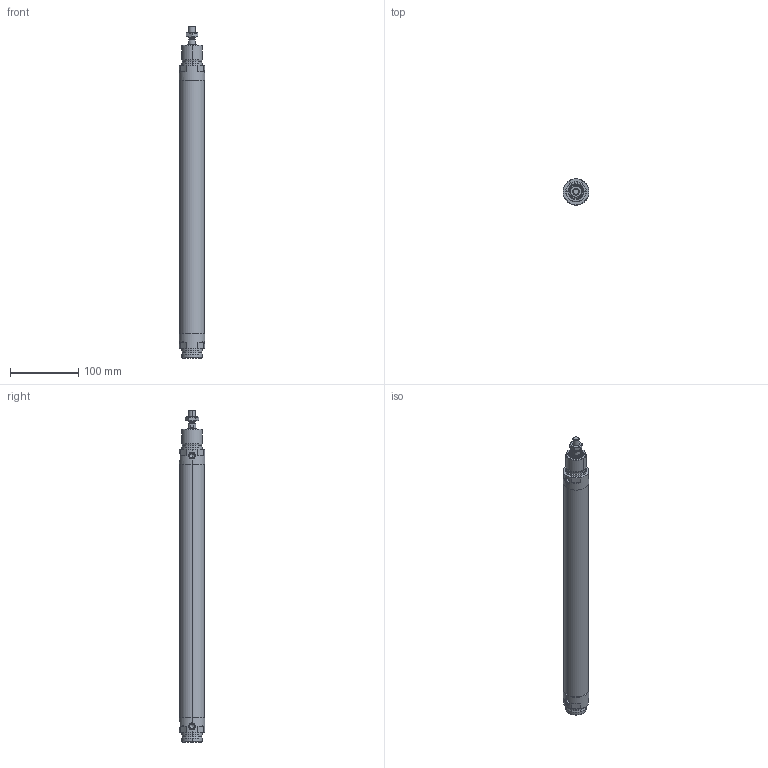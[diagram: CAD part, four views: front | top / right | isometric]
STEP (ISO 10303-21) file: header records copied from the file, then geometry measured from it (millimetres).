
FILE_DESCRIPTION (( 'STEP AP214' ), '1' );
FILE_NAME ('2411782n.STEP', '2016-11-03T11:27:49', ( '' ), ( '' ), 'SwSTEP 2.0', 'SolidWorks 2016', '' );
FILE_SCHEMA (( 'AUTOMOTIVE_DESIGN' ));
Length unit declared in the file: millimetre
Products named in the file (1): 2411782n
Bounding box: 38 x 38 x 488 mm (x, y, z)
Volume: 456100 mm3; surface area: 62370.6 mm2
Topology: 3 solids, 3 shells, 183 faces, 435 edges, 265 vertices
Faces by surface type: cylinder 62, cone 52, plane 49, bspline 20
Entity records: 7139 total; most frequent: CARTESIAN_POINT 2077, DIRECTION 887, ORIENTED_EDGE 850, EDGE_CURVE 425, AXIS2_PLACEMENT_3D 361, VERTEX_POINT 265, EDGE_LOOP 200, CIRCLE 197
